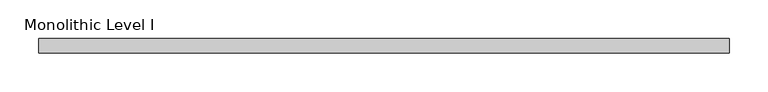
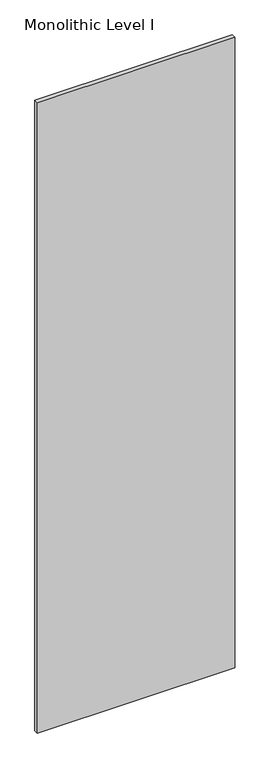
"""IFC4 building model written with IfcOpenShell, lengths in millimetres: proxy geometry, Panel-Fascia-Teknion-Altos-Standard : Monolithic Level I."""

from ifc_helpers import new_model, si_unit, frame, origin, place, context, project, spatial, polyline, outline, extrude, source, transform, mapped, element, save


def monolithic_level_i_5f1d8d04(model_context):
    return source(origin(), model_context, "Body", "SweptSolid", [
        extrude(outline(polyline([(447.0300781, -9.525), (-447.0300781, -9.525), (-447.0300781, 9.525), (447.0300781, 9.525), (447.0300781, -9.525)])), frame((0.0, 0.0, 3.175), z_axis=(0.0, 0.0, 1.0), x_axis=(1.0, 0.0, 0.0)), (0.0, 0.0, 1.0), 3016.25),
    ])


if __name__ == "__main__":
    model = new_model("IFC4")
    model_context = context("Model", 3, world=origin())
    ifc_project = project(units=[si_unit("LENGTHUNIT", "METRE", prefix="MILLI")], contexts=[model_context])
    site = spatial("IfcSite", under=ifc_project)
    building = spatial("IfcBuilding", under=site)
    placement = place(None, origin())
    monolithic_level_i_shape = monolithic_level_i_5f1d8d04(model_context)
    element("IfcBuildingElementProxy", 1, Name="Panel-Fascia-Teknion-Altos-Standard : Monolithic Level I", ObjectType="Panel-Fascia-Teknion-Altos-Standard : Monolithic Level I", at=placement, inside=building, context=model_context, shape_type="MappedRepresentation", body=[
        mapped(monolithic_level_i_shape, transform((0.0, 0.0, 0.0), x_axis=(1.0, 0.0, 0.0), y_axis=(0.0, 1.0, 0.0), z_axis=(0.0, 0.0, 1.0))),
    ])
    save(model, "model.ifc")
